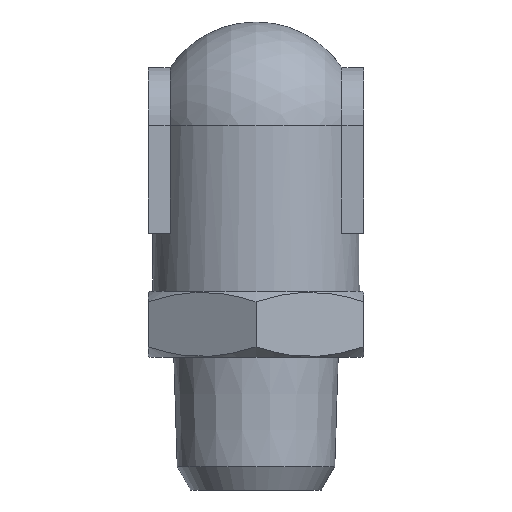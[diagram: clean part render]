
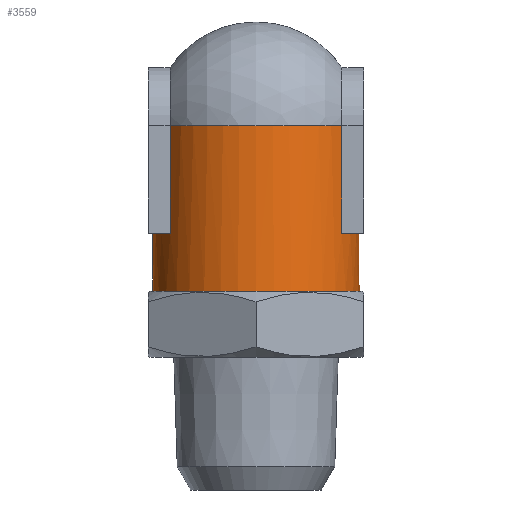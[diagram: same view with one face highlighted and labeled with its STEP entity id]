
A CAD part, left-side view. The second image highlights one B-rep face of the part: STEP entity #3559.
In plain terms, the highlighted cylindrical face has radius 6.25 mm (diameter 12.5 mm), a full revolution.
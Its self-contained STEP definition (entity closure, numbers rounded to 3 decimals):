
#13=(
BOUNDED_CURVE()
B_SPLINE_CURVE(3,(#2709,#2710,#2711,#2712,#2713,#2714,#2715,#2716,#2717,
#2718,#2719,#2720,#2721,#2722,#2723,#2724,#2725,#2726,#2727,#2728,#2729,
#2730,#2731,#2732,#2733,#2734,#2735,#2736,#2737,#2738,#2739,#2740,#2741,
#2742,#2743,#2744,#2745,#2746,#2747,#2748),.UNSPECIFIED.,.U.,.U.)
B_SPLINE_CURVE_WITH_KNOTS((4,1,1,1,1,1,1,1,1,1,1,1,1,1,1,1,1,1,1,1,1,1,
1,1,1,1,1,1,1,1,1,1,1,1,1,1,1,4),(0.216,0.225,0.246,
0.266,0.286,0.305,0.323,
0.34,0.357,0.373,0.388,
0.403,0.418,0.432,0.446,0.459,
0.473,0.486,0.5,0.5,
0.514,0.527,0.541,0.554,
0.568,0.582,0.597,0.612,
0.627,0.643,0.66,0.677,
0.695,0.714,0.734,0.754,
0.775,0.784),.UNSPECIFIED.)
CURVE()
GEOMETRIC_REPRESENTATION_ITEM()
RATIONAL_B_SPLINE_CURVE((1.,1.,1.,1.,1.,1.,1.,1.,1.,1.,1.,1.,1.,1.,1.,1.,
1.,1.,1.,1.,1.,1.,1.,1.,1.,1.,1.,1.,1.,1.,1.,1.,1.,1.,1.,1.,1.,1.,1.,1.))
REPRESENTATION_ITEM('')
);
#26=VECTOR('',#2377,1.);
#27=VECTOR('',#2380,1.);
#28=VECTOR('',#2385,1.);
#29=VECTOR('',#2388,1.);
#66=LINE('',#2694,#26);
#67=LINE('',#2698,#27);
#68=LINE('',#2704,#28);
#69=LINE('',#2708,#29);
#1513=ORIENTED_EDGE('',*,*,#1870,.F.);
#1514=ORIENTED_EDGE('',*,*,#1871,.F.);
#1515=ORIENTED_EDGE('',*,*,#1872,.F.);
#1516=ORIENTED_EDGE('',*,*,#1873,.F.);
#1517=ORIENTED_EDGE('',*,*,#1874,.F.);
#1518=ORIENTED_EDGE('',*,*,#1875,.F.);
#1519=ORIENTED_EDGE('',*,*,#1876,.F.);
#1520=ORIENTED_EDGE('',*,*,#1877,.F.);
#1521=ORIENTED_EDGE('',*,*,#1878,.F.);
#1522=ORIENTED_EDGE('',*,*,#1868,.T.);
#1690=CIRCLE('',#3425,6.25);
#1692=CIRCLE('',#3428,6.25);
#1693=CIRCLE('',#3429,6.25);
#1694=CIRCLE('',#3430,6.25);
#1695=CIRCLE('',#3431,6.25);
#1764=VERTEX_POINT('',#2687);
#1766=VERTEX_POINT('',#2692);
#1767=VERTEX_POINT('',#2693);
#1768=VERTEX_POINT('',#2695);
#1769=VERTEX_POINT('',#2697);
#1770=VERTEX_POINT('',#2699);
#1771=VERTEX_POINT('',#2701);
#1772=VERTEX_POINT('',#2703);
#1773=VERTEX_POINT('',#2705);
#1774=VERTEX_POINT('',#2707);
#1868=EDGE_CURVE('',#1764,#1764,#1690,.T.);
#1870=EDGE_CURVE('',#1766,#1767,#66,.T.);
#1871=EDGE_CURVE('',#1768,#1766,#1692,.T.);
#1872=EDGE_CURVE('',#1769,#1768,#67,.T.);
#1873=EDGE_CURVE('',#1770,#1769,#1693,.T.);
#1874=EDGE_CURVE('',#1771,#1770,#1694,.T.);
#1875=EDGE_CURVE('',#1772,#1771,#68,.T.);
#1876=EDGE_CURVE('',#1773,#1772,#1695,.T.);
#1877=EDGE_CURVE('',#1774,#1773,#69,.T.);
#1878=EDGE_CURVE('',#1767,#1774,#13,.T.);
#2008=EDGE_LOOP('',(#1513,#1514,#1515,#1516,#1517,#1518,#1519,#1520,#1521));
#2009=EDGE_LOOP('',(#1522));
#2140=FACE_BOUND('',#2008,.T.);
#2141=FACE_BOUND('',#2009,.T.);
#2371=DIRECTION('',(0.,1.,0.));
#2372=DIRECTION('',(0.,0.,6.25));
#2375=DIRECTION('',(0.,-1.,0.));
#2376=DIRECTION('',(-1.,0.,0.));
#2377=DIRECTION('',(0.,2.72,0.));
#2378=DIRECTION('',(0.,1.,0.));
#2379=DIRECTION('',(0.,0.,-6.25));
#2380=DIRECTION('',(0.,-6.5,0.));
#2381=DIRECTION('',(0.,1.,0.));
#2382=DIRECTION('',(0.,0.,6.25));
#2383=DIRECTION('',(0.,1.,0.));
#2384=DIRECTION('',(0.,0.,6.25));
#2385=DIRECTION('',(0.,6.5,0.));
#2386=DIRECTION('',(0.,1.,0.));
#2387=DIRECTION('',(0.,0.,-6.25));
#2388=DIRECTION('',(0.,-2.72,0.));
#2687=CARTESIAN_POINT('',(28.838,24.73,0.));
#2688=CARTESIAN_POINT('',(35.088,24.73,0.));
#2691=CARTESIAN_POINT('',(35.088,34.73,0.));
#2692=CARTESIAN_POINT('',(38.588,28.23,5.178));
#2693=CARTESIAN_POINT('',(38.588,30.95,5.178));
#2694=CARTESIAN_POINT('',(38.588,28.23,5.178));
#2695=CARTESIAN_POINT('',(31.588,28.23,5.178));
#2696=CARTESIAN_POINT('',(35.088,28.23,0.));
#2697=CARTESIAN_POINT('',(31.588,34.73,5.178));
#2698=CARTESIAN_POINT('',(31.588,34.73,5.178));
#2699=CARTESIAN_POINT('',(28.838,34.73,0.));
#2700=CARTESIAN_POINT('',(35.088,34.73,0.));
#2701=CARTESIAN_POINT('',(31.588,34.73,-5.178));
#2702=CARTESIAN_POINT('',(35.088,34.73,0.));
#2703=CARTESIAN_POINT('',(31.588,28.23,-5.178));
#2704=CARTESIAN_POINT('',(31.588,28.23,-5.178));
#2705=CARTESIAN_POINT('',(38.588,28.23,-5.178));
#2706=CARTESIAN_POINT('',(35.088,28.23,0.));
#2707=CARTESIAN_POINT('',(38.588,30.95,-5.178));
#2708=CARTESIAN_POINT('',(38.588,30.95,-5.178));
#2709=CARTESIAN_POINT('',(38.588,30.95,5.178));
#2710=CARTESIAN_POINT('',(38.633,30.902,5.148));
#2711=CARTESIAN_POINT('',(38.782,30.741,5.044));
#2712=CARTESIAN_POINT('',(39.028,30.475,4.856));
#2713=CARTESIAN_POINT('',(39.318,30.162,4.606));
#2714=CARTESIAN_POINT('',(39.588,29.87,4.343));
#2715=CARTESIAN_POINT('',(39.838,29.6,4.068));
#2716=CARTESIAN_POINT('',(40.067,29.352,3.783));
#2717=CARTESIAN_POINT('',(40.277,29.126,3.489));
#2718=CARTESIAN_POINT('',(40.467,28.921,3.189));
#2719=CARTESIAN_POINT('',(40.637,28.738,2.883));
#2720=CARTESIAN_POINT('',(40.787,28.575,2.573));
#2721=CARTESIAN_POINT('',(40.918,28.433,2.259));
#2722=CARTESIAN_POINT('',(41.031,28.311,1.943));
#2723=CARTESIAN_POINT('',(41.126,28.209,1.625));
#2724=CARTESIAN_POINT('',(41.203,28.126,1.306));
#2725=CARTESIAN_POINT('',(41.262,28.062,0.986));
#2726=CARTESIAN_POINT('',(41.305,28.015,0.664));
#2727=CARTESIAN_POINT('',(41.331,27.987,0.339));
#2728=CARTESIAN_POINT('',(41.338,27.98,0.114));
#2729=CARTESIAN_POINT('',(41.338,27.98,-0.114));
#2730=CARTESIAN_POINT('',(41.331,27.987,-0.339));
#2731=CARTESIAN_POINT('',(41.305,28.015,-0.664));
#2732=CARTESIAN_POINT('',(41.262,28.062,-0.986));
#2733=CARTESIAN_POINT('',(41.203,28.126,-1.306));
#2734=CARTESIAN_POINT('',(41.126,28.209,-1.625));
#2735=CARTESIAN_POINT('',(41.031,28.311,-1.943));
#2736=CARTESIAN_POINT('',(40.918,28.433,-2.259));
#2737=CARTESIAN_POINT('',(40.787,28.575,-2.573));
#2738=CARTESIAN_POINT('',(40.637,28.738,-2.883));
#2739=CARTESIAN_POINT('',(40.467,28.921,-3.189));
#2740=CARTESIAN_POINT('',(40.277,29.126,-3.489));
#2741=CARTESIAN_POINT('',(40.067,29.352,-3.783));
#2742=CARTESIAN_POINT('',(39.838,29.6,-4.068));
#2743=CARTESIAN_POINT('',(39.588,29.87,-4.343));
#2744=CARTESIAN_POINT('',(39.318,30.162,-4.606));
#2745=CARTESIAN_POINT('',(39.028,30.475,-4.856));
#2746=CARTESIAN_POINT('',(38.782,30.741,-5.044));
#2747=CARTESIAN_POINT('',(38.633,30.902,-5.148));
#2748=CARTESIAN_POINT('',(38.588,30.95,-5.178));
#3425=AXIS2_PLACEMENT_3D('',#2688,#2371,#2372);
#3427=AXIS2_PLACEMENT_3D('',#2691,#2375,#2376);
#3428=AXIS2_PLACEMENT_3D('',#2696,#2378,#2379);
#3429=AXIS2_PLACEMENT_3D('',#2700,#2381,#2382);
#3430=AXIS2_PLACEMENT_3D('',#2702,#2383,#2384);
#3431=AXIS2_PLACEMENT_3D('',#2706,#2386,#2387);
#3511=CYLINDRICAL_SURFACE('',#3427,6.25);
#3559=ADVANCED_FACE('',(#2140,#2141),#3511,.T.);
